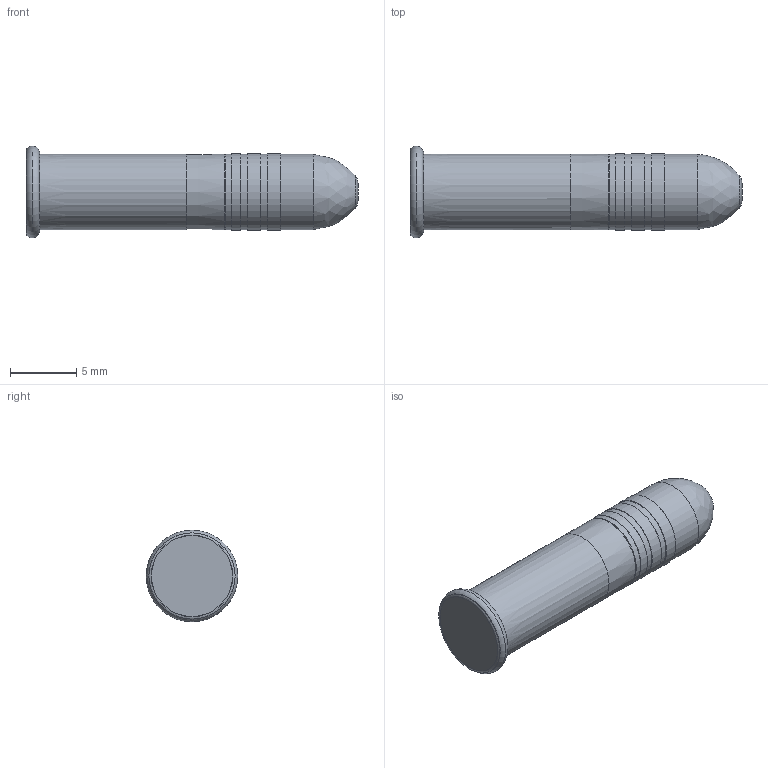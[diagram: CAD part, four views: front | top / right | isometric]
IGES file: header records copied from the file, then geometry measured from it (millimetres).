
Global section: file name: No Iges File Name specified; native system: Autodesk Inventor 2012; preprocessor: AutoDesk Inventor Iges Exporter R2012; author: Bandvov; date: 20120610.130504; units: millimetre
Bounding box: 25.02 x 6.91 x 6.91 mm (x, y, z)
Volume: 307 mm3; surface area: 779.8 mm2
Topology: 1 solids, 2 shells, 32 faces, 55 edges, 32 vertices
Faces by surface type: plane 9, cylinder 7, torus 5, revolution 5, bspline 4, cone 2
Full cylindrical faces by diameter (mm): 5.664 x4, 5.744 x1, 5.753 x1, 5.782 x1
